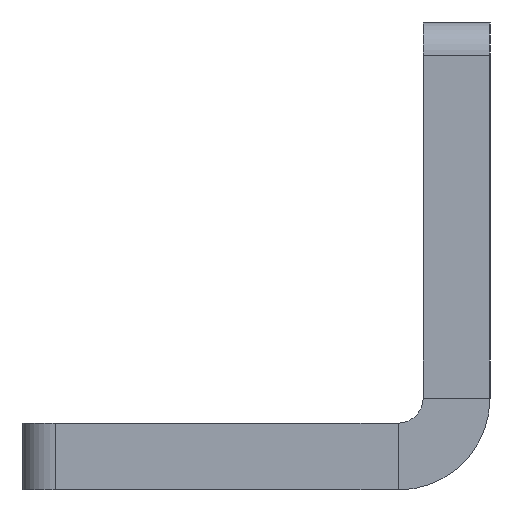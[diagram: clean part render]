
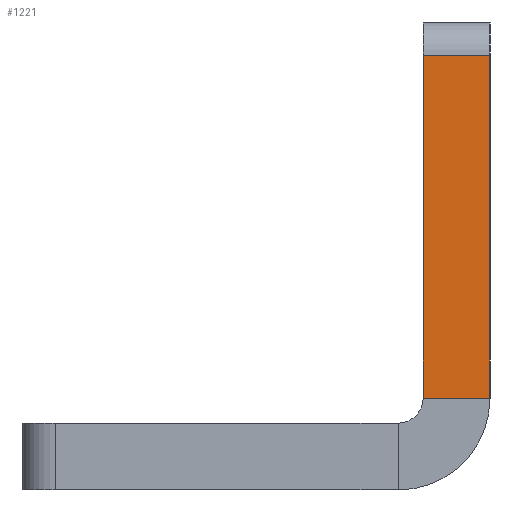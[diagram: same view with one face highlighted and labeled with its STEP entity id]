
A CAD part, left-side view. The second image highlights one B-rep face of the part: STEP entity #1221.
In plain terms, the highlighted planar face has unit normal (-1, 0, 0).
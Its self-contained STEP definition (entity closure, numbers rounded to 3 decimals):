
#115 = LINE ( 'NONE', #327, #450 ) ;
#131 = CARTESIAN_POINT ( 'NONE',  ( -16.217, -14.803, 5.5 ) ) ;
#133 = CARTESIAN_POINT ( 'NONE',  ( -16.217, -10.803, 28. ) ) ;
#136 = CARTESIAN_POINT ( 'NONE',  ( -16.217, -10.803, 5.5 ) ) ;
#214 = ORIENTED_EDGE ( 'NONE', *, *, #1214, .F. ) ;
#243 = VECTOR ( 'NONE', #1293, 1000. ) ;
#248 = DIRECTION ( 'NONE',  ( 0., 1., 0. ) ) ;
#303 = EDGE_CURVE ( 'NONE', #1195, #1589, #580, .T. ) ;
#327 = CARTESIAN_POINT ( 'NONE',  ( -16.217, -10.803, 26. ) ) ;
#331 = VECTOR ( 'NONE', #492, 1000. ) ;
#381 = DIRECTION ( 'NONE',  ( 0., 0., -1. ) ) ;
#429 = ORIENTED_EDGE ( 'NONE', *, *, #303, .T. ) ;
#449 = VERTEX_POINT ( 'NONE', #725 ) ;
#450 = VECTOR ( 'NONE', #1104, 1000. ) ;
#492 = DIRECTION ( 'NONE',  ( 0., 0., -1. ) ) ;
#580 = LINE ( 'NONE', #133, #243 ) ;
#620 = ORIENTED_EDGE ( 'NONE', *, *, #665, .T. ) ;
#665 = EDGE_CURVE ( 'NONE', #449, #1195, #115, .T. ) ;
#725 = CARTESIAN_POINT ( 'NONE',  ( -16.217, -14.803, 26. ) ) ;
#765 = CARTESIAN_POINT ( 'NONE',  ( -16.217, -10.803, 28. ) ) ;
#879 = ORIENTED_EDGE ( 'NONE', *, *, #1185, .F. ) ;
#897 = FACE_OUTER_BOUND ( 'NONE', #1062, .T. ) ;
#974 = VECTOR ( 'NONE', #248, 1000. ) ;
#1012 = CARTESIAN_POINT ( 'NONE',  ( -16.217, -10.803, 26. ) ) ;
#1062 = EDGE_LOOP ( 'NONE', ( #214, #879, #620, #429 ) ) ;
#1104 = DIRECTION ( 'NONE',  ( 0., 1., 0. ) ) ;
#1155 = DIRECTION ( 'NONE',  ( -1., 0., 0. ) ) ;
#1185 = EDGE_CURVE ( 'NONE', #449, #1565, #1336, .T. ) ;
#1195 = VERTEX_POINT ( 'NONE', #1012 ) ;
#1214 = EDGE_CURVE ( 'NONE', #1565, #1589, #1596, .T. ) ;
#1221 = ADVANCED_FACE ( 'NONE', ( #897 ), #1283, .T. ) ;
#1283 = PLANE ( 'NONE',  #1427 ) ;
#1293 = DIRECTION ( 'NONE',  ( 0., 0., -1. ) ) ;
#1336 = LINE ( 'NONE', #1662, #331 ) ;
#1427 = AXIS2_PLACEMENT_3D ( 'NONE', #765, #1155, #381 ) ;
#1565 = VERTEX_POINT ( 'NONE', #131 ) ;
#1589 = VERTEX_POINT ( 'NONE', #136 ) ;
#1596 = LINE ( 'NONE', #1666, #974 ) ;
#1662 = CARTESIAN_POINT ( 'NONE',  ( -16.217, -14.803, 28. ) ) ;
#1666 = CARTESIAN_POINT ( 'NONE',  ( -16.217, -10.803, 5.5 ) ) ;
